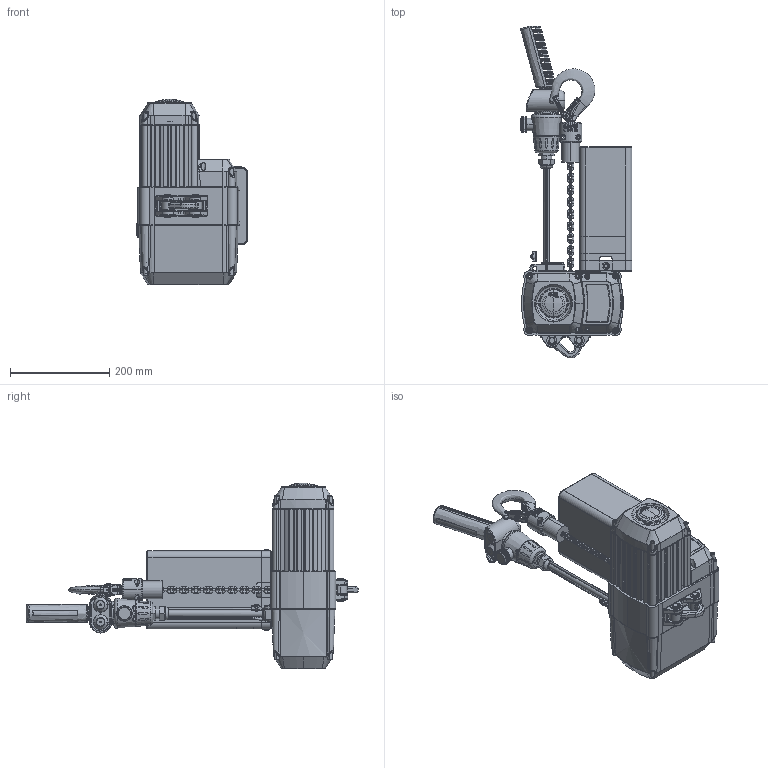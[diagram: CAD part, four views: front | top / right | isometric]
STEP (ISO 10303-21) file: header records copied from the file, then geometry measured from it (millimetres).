
FILE_DESCRIPTION (( 'STEP AP203' ), '1' );
FILE_NAME ('CPVF mini 2-8.STEP', '2015-01-29T07:04:26', ( 'install' ), ( 'cmco' ), 'SwSTEP 2.0', 'SolidWorks 2012', '' );
FILE_SCHEMA (( 'CONFIG_CONTROL_DESIGN' ));
Products named in the file (1): CPVF mini 2-8
Bounding box: 225 x 667.85 x 373.1 mm (x, y, z)
Surface area: 809047.1 mm2 (no closed solid volume)
Topology: 0 solids, 173 shells, 2659 faces, 10600 edges, 7795 vertices
Faces by surface type: cylinder 866, plane 799, bspline 453, torus 269, cone 224, sphere 48
Entity records: 175220 total; most frequent: CARTESIAN_POINT 94710, DIRECTION 15903, ORIENTED_EDGE 15291, EDGE_CURVE 10508, VERTEX_POINT 7743, AXIS2_PLACEMENT_3D 5847, VECTOR 4209, LINE 4209
